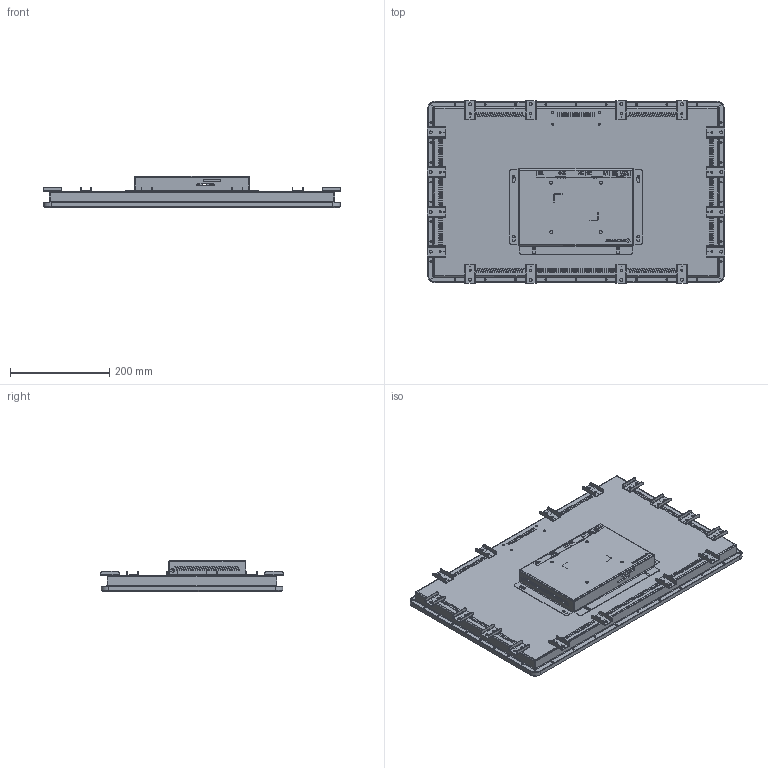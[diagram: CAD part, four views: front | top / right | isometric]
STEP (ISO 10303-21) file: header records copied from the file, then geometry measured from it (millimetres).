
FILE_DESCRIPTION(('STEP AP242'), '1');
FILE_NAME('栖闉罻_DNA24_V2', '', ('UNSPECIFIED'), ('UNSPECIFIED'), 'C3D Converter', 'C3D Toolkit', '');
FILE_SCHEMA(('AP242_MANAGED_MODEL_BASED_3D_ENGINEERING_MIM_LF { 1 0 10303 442 1 1 4 }'));
Length unit declared in the file: millimetre
Bounding box: 600 x 367.72 x 62.5 mm (x, y, z)
Volume: 1527661.7 mm3; surface area: 1136170.1 mm2
Topology: 2 solids, 2 shells, 4083 faces, 11065 edges, 7222 vertices
Faces by surface type: plane 2063, cylinder 1078, extrusion 894, bspline 40, cone 8
Full cylindrical faces by diameter (mm): 1.6 x16, 2 x20, 2.5 x50, 3.5 x34, 4 x6, 4.2 x26, 4.22 x6, 4.35 x16, 6 x16, 6.1 x4
Entity records: 164817 total; most frequent: CARTESIAN_POINT 30379, ORIENTED_EDGE 21742, DIRECTION 18337, EDGE_CURVE 10871, VECTOR 7757, VERTEX_POINT 7222, LINE 6863, AXIS2_PLACEMENT_3D 5290
